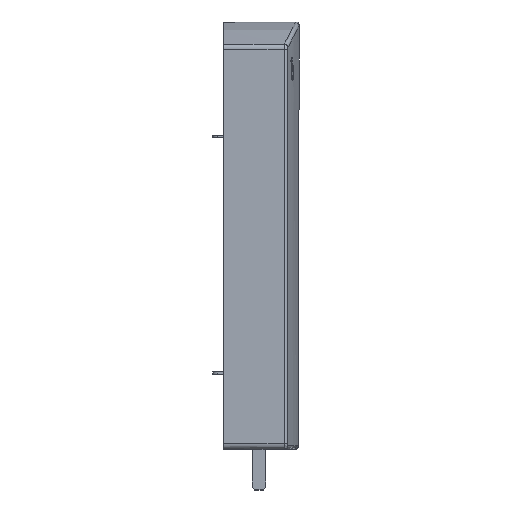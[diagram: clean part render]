
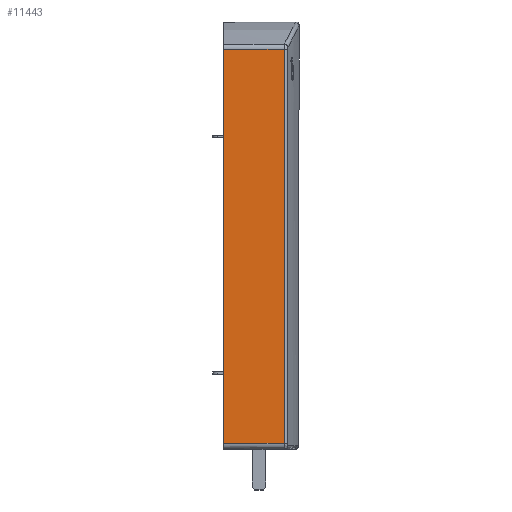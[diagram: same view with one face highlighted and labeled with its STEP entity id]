
A CAD part, top view. The second image highlights one B-rep face of the part: STEP entity #11443.
In plain terms, the highlighted planar face has unit normal (0, 0, 1).
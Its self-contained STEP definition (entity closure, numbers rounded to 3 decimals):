
#505 = LINE ( 'NONE', #6404, #6278 ) ;
#1014 = CARTESIAN_POINT ( 'NONE',  ( 0., -6.062, 22.754 ) ) ;
#1015 = CARTESIAN_POINT ( 'NONE',  ( 0., 207.096, 22.754 ) ) ;
#1222 = EDGE_LOOP ( 'NONE', ( #1423, #1424, #1425, #1426 ) ) ;
#1423 = ORIENTED_EDGE ( 'NONE', *, *, #13748, .F. ) ;
#1424 = ORIENTED_EDGE ( 'NONE', *, *, #13749, .T. ) ;
#1425 = ORIENTED_EDGE ( 'NONE', *, *, #13750, .T. ) ;
#1426 = ORIENTED_EDGE ( 'NONE', *, *, #11331, .F. ) ;
#3304 = VECTOR ( 'NONE', #3610, 1000. ) ;
#3305 = VECTOR ( 'NONE', #3604, 1000. ) ;
#3306 = VECTOR ( 'NONE', #3608, 1000. ) ;
#3593 = LINE ( 'NONE', #3603, #3305 ) ;
#3594 = LINE ( 'NONE', #3609, #3304 ) ;
#3603 = CARTESIAN_POINT ( 'NONE',  ( 41.001, -6.062, 22.754 ) ) ;
#3604 = DIRECTION ( 'NONE',  ( -1., 0., 0. ) ) ;
#3605 = LINE ( 'NONE', #3607, #3306 ) ;
#3607 = CARTESIAN_POINT ( 'NONE',  ( 32.709, 207.096, 22.754 ) ) ;
#3608 = DIRECTION ( 'NONE',  ( 0., 1., 0. ) ) ;
#3609 = CARTESIAN_POINT ( 'NONE',  ( 41.001, 207.096, 22.754 ) ) ;
#3610 = DIRECTION ( 'NONE',  ( -1., 0., 0. ) ) ;
#3873 = CARTESIAN_POINT ( 'NONE',  ( 32.709, 207.096, 22.754 ) ) ;
#3889 = CARTESIAN_POINT ( 'NONE',  ( 32.709, -6.062, 22.754 ) ) ;
#6278 = VECTOR ( 'NONE', #6405, 1000. ) ;
#6404 = CARTESIAN_POINT ( 'NONE',  ( 0., 207.096, 22.754 ) ) ;
#6405 = DIRECTION ( 'NONE',  ( 0., 1., 0. ) ) ;
#6813 = CARTESIAN_POINT ( 'NONE',  ( 41.001, 207.096, 22.754 ) ) ;
#6814 = FACE_OUTER_BOUND ( 'NONE', #1222, .T. ) ;
#6822 = PLANE ( 'NONE',  #6950 ) ;
#6825 = DIRECTION ( 'NONE',  ( 0., 0., 1. ) ) ;
#6826 = DIRECTION ( 'NONE',  ( 1., 0., 0. ) ) ;
#6950 = AXIS2_PLACEMENT_3D ( 'NONE', #6813, #6825, #6826 ) ;
#11130 = VERTEX_POINT ( 'NONE', #1014 ) ;
#11131 = VERTEX_POINT ( 'NONE', #1015 ) ;
#11331 = EDGE_CURVE ( 'NONE', #11130, #11131, #505, .T. ) ;
#11443 = ADVANCED_FACE ( 'NONE', ( #6814 ), #6822, .T. ) ;
#13748 = EDGE_CURVE ( 'NONE', #13868, #11130, #3593, .T. ) ;
#13749 = EDGE_CURVE ( 'NONE', #13868, #13850, #3605, .T. ) ;
#13750 = EDGE_CURVE ( 'NONE', #13850, #11131, #3594, .T. ) ;
#13850 = VERTEX_POINT ( 'NONE', #3873 ) ;
#13868 = VERTEX_POINT ( 'NONE', #3889 ) ;
